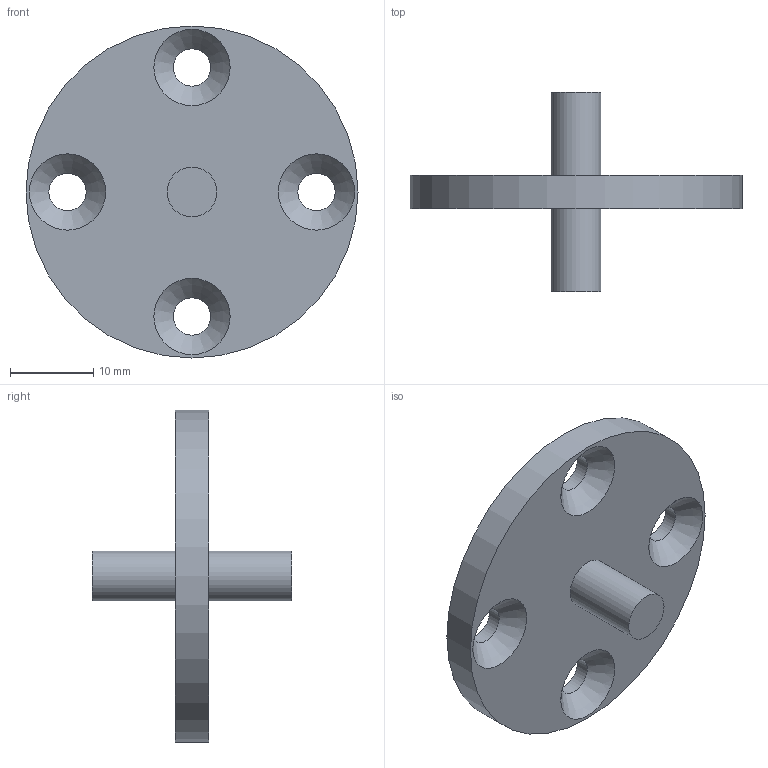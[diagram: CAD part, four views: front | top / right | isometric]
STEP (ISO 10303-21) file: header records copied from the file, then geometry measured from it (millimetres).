
FILE_DESCRIPTION(/* description */ (''),/* implementation_level */ '2;1');
FILE_NAME(/* name */ 'CWC-SE0009-P04_Torque Sensor Axle TD70.stp',/* time_stamp */ '2026-04-28T16:16:04+02:00',/* author */ (''),/* organization */ (''),/* preprocessor_version */ 'ST-DEVELOPER v18.1',/* originating_system */ 'SIEMENS PLM Software NX 1988',/* authorisation */ '');
FILE_SCHEMA (('AUTOMOTIVE_DESIGN { 1 0 10303 214 3 1 1 1 }'));
Length unit declared in the file: millimetre
Products named in the file (1): anto6558201A7exv
Bounding box: 40 x 24 x 40 mm (x, y, z)
Volume: 5129.1 mm3; surface area: 3442.9 mm2
Topology: 1 solids, 1 shells, 15 faces, 35 edges, 24 vertices
Faces by surface type: cylinder 7, plane 4, cone 4
Full cylindrical faces by diameter (mm): 4.5 x4, 6 x2, 40 x1
Entity records: 382 total; most frequent: DIRECTION 68, CARTESIAN_POINT 52, EDGE_LOOP 36, ORIENTED_EDGE 36, FACE_BOUND 34, AXIS2_PLACEMENT_3D 34, VERTEX_POINT 18, EDGE_CURVE 18
